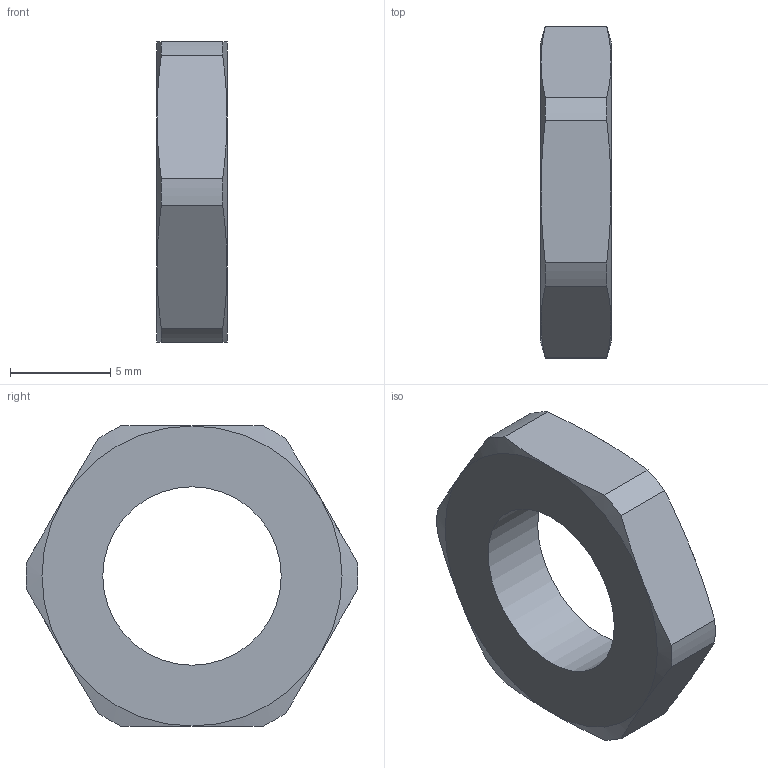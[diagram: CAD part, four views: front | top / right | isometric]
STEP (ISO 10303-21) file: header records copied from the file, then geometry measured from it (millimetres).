
FILE_DESCRIPTION( ( 'STEP AP203' ), '1' );
FILE_NAME( 'C:/Temp/Ganter_Step_05_03_2020/data/3_1/gn909_5/Flat St. Steel-Hexagonal nut GN 909.5-M10x1.stp', '2020-03-12T09:07:22', ( 'License CC BY-ND 4.0' ), ( 'CADENAS' ), ' ', 'PARTsolutions', ' ' );
FILE_SCHEMA( ( 'CONFIG_CONTROL_DESIGN' ) );
Length unit declared in the file: millimetre
Products named in the file (1): _Flat St. Steel-Hexagonal nut GN 909.5-M10x1
Bounding box: 3.5 x 16.59 x 15 mm (x, y, z)
Volume: 455.7 mm3; surface area: 529.1 mm2
Topology: 1 solids, 1 shells, 27 faces, 63 edges, 38 vertices
Faces by surface type: cone 12, plane 8, cylinder 7
Full cylindrical faces by diameter (mm): 8.917 x1
Entity records: 834 total; most frequent: CARTESIAN_POINT 200, ORIENTED_EDGE 124, DIRECTION 120, EDGE_CURVE 62, AXIS2_PLACEMENT_3D 54, VERTEX_POINT 38, EDGE_LOOP 30, FACE_OUTER_BOUND 28
